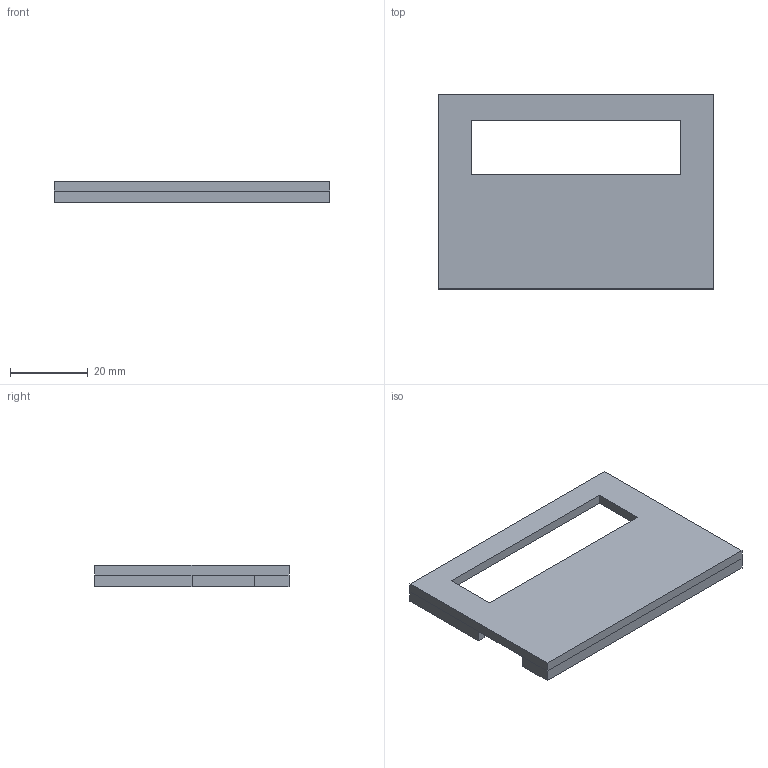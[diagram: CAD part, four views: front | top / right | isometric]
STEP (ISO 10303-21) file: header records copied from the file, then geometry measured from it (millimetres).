
FILE_DESCRIPTION(('Open CASCADE Model'),'2;1');
FILE_NAME('Open CASCADE Shape Model','2026-10-23T21:21:33',('Author'),( 'Open CASCADE'),'Open CASCADE STEP processor 8.0','Open CASCADE 8.0' ,'Unknown');
FILE_SCHEMA(('AUTOMOTIVE_DESIGN { 1 0 10303 214 1 1 1 1 }'));
Length unit declared in the file: millimetre
Products named in the file (1): Open CASCADE STEP translator 8.0 2
Bounding box: 71 x 50 x 5.5 mm (x, y, z)
Volume: 8293 mm3; surface area: 7853 mm2
Topology: 1 solids, 1 shells, 23 faces, 57 edges, 36 vertices
Faces by surface type: plane 23
Entity records: 1373 total; most frequent: CARTESIAN_POINT 276, DIRECTION 174, LINE 126, VECTOR 126, ORIENTED_EDGE 114, PCURVE 114, DEFINITIONAL_REPRESENTATION 114, EDGE_CURVE 57
